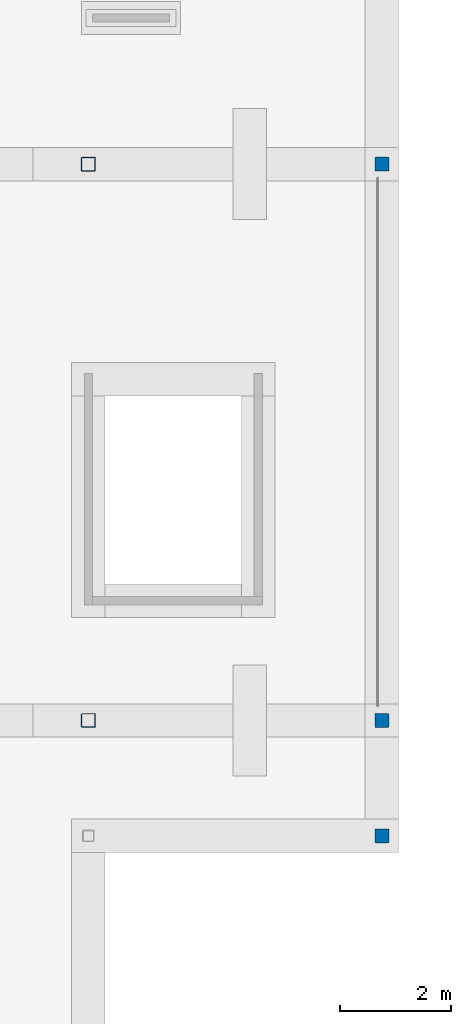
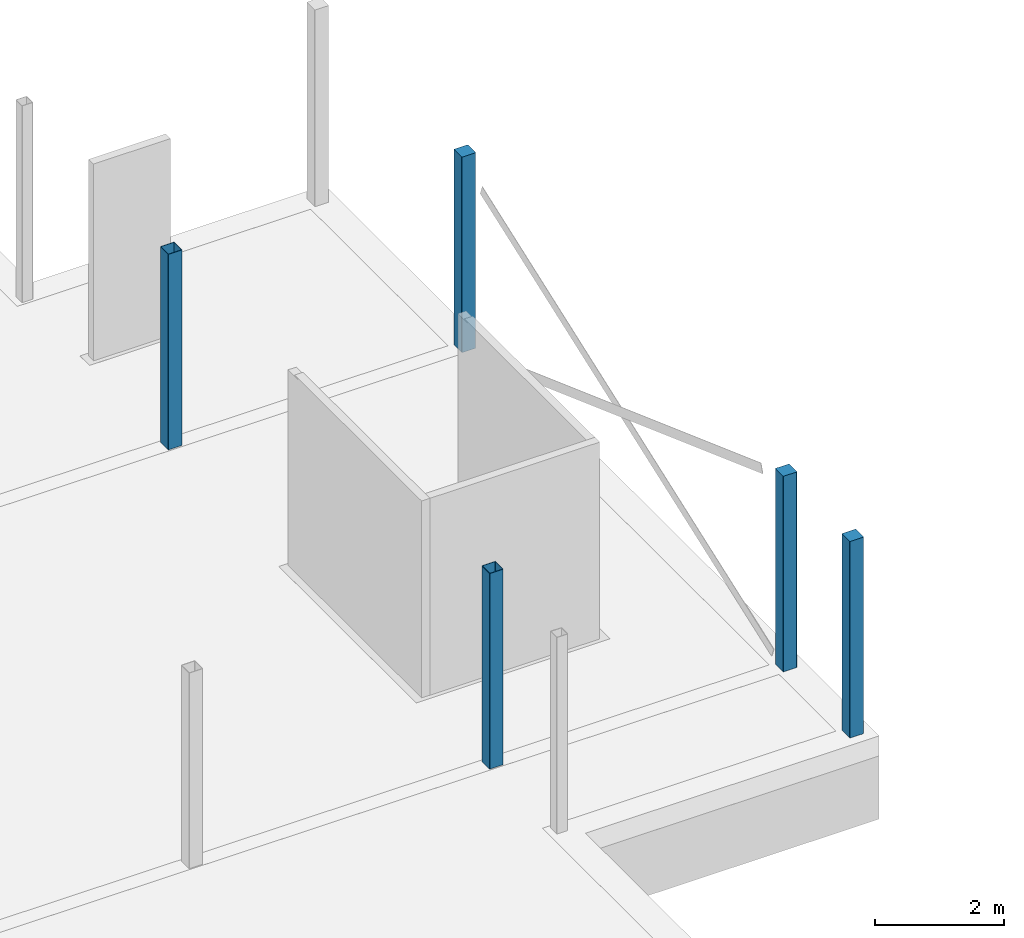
# One storey, part 4 of 12: 5 columns.
"""IFC2X3 building model written with IfcOpenShell, lengths in millimetres."""

from ifc_helpers import new_model, entity, si_unit, converted_unit, derived_unit, direction, frame, frame_2d, origin, place, context, subcontext, project, spatial, polyline, circle_curve, parameter, trimmed, segment, composite_curve, outline, extrude, source, transform, mapped, material, material_list, type_object, type_shapes, element, save


model = new_model("IFC2X3")

# Units and contexts
model_context = context("Model", 3, precision=0.01, world=origin(), true_north=direction((6.123031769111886e-17, 1.0)))
body_context = subcontext(model_context, "Body", "Model", "MODEL_VIEW")
ifc_project = project(units=[si_unit("LENGTHUNIT", "METRE", prefix="MILLI"), si_unit("AREAUNIT", "SQUARE_METRE"), si_unit("VOLUMEUNIT", "CUBIC_METRE"), converted_unit("PLANEANGLEUNIT", "DEGREE", entity("IfcPlaneAngleMeasure", 0.017453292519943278), si_unit("PLANEANGLEUNIT", "RADIAN"), dimensions=[0, 0, 0, 0, 0, 0, 0]), si_unit("MASSUNIT", "GRAM", prefix="KILO"), derived_unit("MASSDENSITYUNIT", [(si_unit("MASSUNIT", "GRAM", prefix="KILO"), 1), (si_unit("LENGTHUNIT", "METRE"), -3)]), derived_unit("IONCONCENTRATIONUNIT", [(si_unit("MASSUNIT", "GRAM", prefix="KILO"), 1), (si_unit("LENGTHUNIT", "METRE"), -3)]), derived_unit("MOMENTOFINERTIAUNIT", [(si_unit("LENGTHUNIT", "METRE"), 4)]), si_unit("TIMEUNIT", "SECOND"), si_unit("FREQUENCYUNIT", "HERTZ"), si_unit("THERMODYNAMICTEMPERATUREUNIT", "DEGREE_CELSIUS"), derived_unit("THERMALTRANSMITTANCEUNIT", [(si_unit("MASSUNIT", "GRAM", prefix="KILO"), 1), (si_unit("THERMODYNAMICTEMPERATUREUNIT", "KELVIN"), -1), (si_unit("TIMEUNIT", "SECOND"), -3)]), derived_unit("THERMALCONDUCTANCEUNIT", [(si_unit("MASSUNIT", "GRAM", prefix="KILO"), 1), (si_unit("THERMODYNAMICTEMPERATUREUNIT", "KELVIN"), -1), (si_unit("TIMEUNIT", "SECOND"), -3), (si_unit("LENGTHUNIT", "METRE"), 1)]), derived_unit("VOLUMETRICFLOWRATEUNIT", [(si_unit("LENGTHUNIT", "METRE", prefix="DECI"), 3), (si_unit("TIMEUNIT", "SECOND"), -1)]), derived_unit("MASSFLOWRATEUNIT", [(si_unit("MASSUNIT", "GRAM", prefix="KILO"), 1), (si_unit("TIMEUNIT", "SECOND"), -1)]), derived_unit("ROTATIONALFREQUENCYUNIT", [(si_unit("TIMEUNIT", "SECOND"), -1)]), si_unit("ELECTRICCURRENTUNIT", "AMPERE"), si_unit("ELECTRICVOLTAGEUNIT", "VOLT"), si_unit("POWERUNIT", "WATT"), si_unit("FORCEUNIT", "NEWTON", prefix="KILO"), si_unit("ILLUMINANCEUNIT", "LUX"), si_unit("LUMINOUSFLUXUNIT", "LUMEN"), si_unit("LUMINOUSINTENSITYUNIT", "CANDELA"), si_unit("ENERGYUNIT", "JOULE"), derived_unit("USERDEFINED", [(si_unit("MASSUNIT", "GRAM", prefix="KILO"), -1), (si_unit("LENGTHUNIT", "METRE"), -2), (si_unit("TIMEUNIT", "SECOND"), 3), (si_unit("LUMINOUSFLUXUNIT", "LUMEN"), 1)]), derived_unit("USERDEFINED", [(si_unit("MASSUNIT", "GRAM", prefix="KILO"), 1), (si_unit("TIMEUNIT", "SECOND"), -3), (si_unit("LENGTHUNIT", "METRE"), 3), (si_unit("ELECTRICCURRENTUNIT", "AMPERE"), -2)]), derived_unit("SOUNDPOWERUNIT", [(si_unit("MASSUNIT", "GRAM", prefix="KILO"), 1), (si_unit("TIMEUNIT", "SECOND"), -3), (si_unit("LENGTHUNIT", "METRE"), 2)]), derived_unit("SOUNDPRESSUREUNIT", [(si_unit("MASSUNIT", "GRAM", prefix="KILO"), 1), (si_unit("LENGTHUNIT", "METRE"), -1), (si_unit("TIMEUNIT", "SECOND"), -2)]), derived_unit("LINEARVELOCITYUNIT", [(si_unit("LENGTHUNIT", "METRE"), 1), (si_unit("TIMEUNIT", "SECOND"), -1)]), si_unit("PRESSUREUNIT", "PASCAL"), derived_unit("USERDEFINED", [(si_unit("MASSUNIT", "GRAM", prefix="KILO"), 1), (si_unit("LENGTHUNIT", "METRE"), -2), (si_unit("TIMEUNIT", "SECOND"), -2)]), derived_unit("LINEARFORCEUNIT", [(si_unit("MASSUNIT", "GRAM", prefix="KILO"), 1), (si_unit("TIMEUNIT", "SECOND"), -2)]), derived_unit("PLANARFORCEUNIT", [(si_unit("MASSUNIT", "GRAM", prefix="KILO"), 1), (si_unit("LENGTHUNIT", "METRE"), -1), (si_unit("TIMEUNIT", "SECOND"), -2)]), derived_unit("SPECIFICHEATCAPACITYUNIT", [(si_unit("THERMODYNAMICTEMPERATUREUNIT", "KELVIN"), -1), (si_unit("LENGTHUNIT", "METRE"), 2), (si_unit("TIMEUNIT", "SECOND"), -2)]), derived_unit("HEATFLUXDENSITYUNIT", [(si_unit("MASSUNIT", "GRAM", prefix="KILO"), 1), (si_unit("TIMEUNIT", "SECOND"), -3)]), derived_unit("HEATINGVALUEUNIT", [(si_unit("LENGTHUNIT", "METRE"), 2), (si_unit("TIMEUNIT", "SECOND"), -2)]), derived_unit("VAPORPERMEABILITYUNIT", [(si_unit("LENGTHUNIT", "METRE"), -1), (si_unit("TIMEUNIT", "SECOND"), 1)]), derived_unit("DYNAMICVISCOSITYUNIT", [(si_unit("MASSUNIT", "GRAM", prefix="KILO"), 1), (si_unit("TIMEUNIT", "SECOND"), -1), (si_unit("LENGTHUNIT", "METRE"), -1)]), derived_unit("THERMALEXPANSIONCOEFFICIENTUNIT", [(si_unit("THERMODYNAMICTEMPERATUREUNIT", "KELVIN"), -1)]), derived_unit("MODULUSOFELASTICITYUNIT", [(si_unit("MASSUNIT", "GRAM", prefix="KILO"), 1), (si_unit("LENGTHUNIT", "METRE"), -1), (si_unit("TIMEUNIT", "SECOND"), -2)]), derived_unit("ISOTHERMALMOISTURECAPACITYUNIT", [(si_unit("MASSUNIT", "GRAM", prefix="KILO"), -1), (si_unit("LENGTHUNIT", "METRE"), 3)]), derived_unit("MOISTUREDIFFUSIVITYUNIT", [(si_unit("TIMEUNIT", "SECOND"), -1), (si_unit("LENGTHUNIT", "METRE"), 2)]), derived_unit("MASSPERLENGTHUNIT", [(si_unit("MASSUNIT", "GRAM", prefix="KILO"), 1), (si_unit("LENGTHUNIT", "METRE"), -1)]), derived_unit("THERMALRESISTANCEUNIT", [(si_unit("MASSUNIT", "GRAM", prefix="KILO"), -1), (si_unit("TIMEUNIT", "SECOND"), 3), (si_unit("THERMODYNAMICTEMPERATUREUNIT", "KELVIN"), 1)]), derived_unit("ACCELERATIONUNIT", [(si_unit("LENGTHUNIT", "METRE"), 1), (si_unit("TIMEUNIT", "SECOND"), -2)]), derived_unit("ANGULARVELOCITYUNIT", [(si_unit("TIMEUNIT", "SECOND"), -1), (si_unit("PLANEANGLEUNIT", "RADIAN"), 1)]), derived_unit("LINEARSTIFFNESSUNIT", [(si_unit("MASSUNIT", "GRAM", prefix="KILO"), 1), (si_unit("TIMEUNIT", "SECOND"), -2)]), derived_unit("WARPINGCONSTANTUNIT", [(si_unit("LENGTHUNIT", "METRE"), 6)]), derived_unit("LINEARMOMENTUNIT", [(si_unit("MASSUNIT", "GRAM", prefix="KILO"), 1), (si_unit("LENGTHUNIT", "METRE"), 1), (si_unit("TIMEUNIT", "SECOND"), -2)]), derived_unit("TORQUEUNIT", [(si_unit("MASSUNIT", "GRAM", prefix="KILO"), 1), (si_unit("LENGTHUNIT", "METRE"), 2), (si_unit("TIMEUNIT", "SECOND"), -2)])], contexts=[model_context])

# Site, building, storey
site_placement = place(None, origin())
site = spatial("IfcSite", under=ifc_project, at=site_placement, Name="Default", CompositionType="ELEMENT")
building_placement = place(site_placement, origin())
building = spatial("IfcBuilding", under=site, at=building_placement, CompositionType="ELEMENT")
storey_placement = place(building_placement, origin())
storey = spatial("IfcBuildingStorey", under=building, at=storey_placement, Name="00 begane grond", CompositionType="ELEMENT", Elevation=0.0)

# Columns
ifc_material_1 = material(Name="VRI_beton_ihwg")
ifc_material_2 = material(Name="VRI_staal")
ifc_material_list = material_list([ifc_material_1, ifc_material_2])
column_type_1 = type_object("IfcColumnType", Name="28_SC_VRI_kolom_staal_betongevuld_koker:K250x250x8_gevuld", PredefinedType="COLUMN", material=ifc_material_list)
shared_shape_1 = source(origin(), body_context, "Body", "SweptSolid", [
    extrude(outline(composite_curve([segment(polyline([(-113.0, -117.0), (113.0, -117.0)]), True, "CONTINUOUS"), segment(trimmed(circle_curve(frame_2d((113.0, -113.0), x_axis=(-1.0, 0.0)), 4.0), [parameter(89.99999999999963)], [parameter(179.9999999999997)], True, "PARAMETER"), True, "CONTINUOUS"), segment(polyline([(117.0, -113.0), (117.0, 113.0)]), True, "CONTINUOUS"), segment(trimmed(circle_curve(frame_2d((113.0, 113.0), x_axis=(-1.0, 0.0)), 4.0), [parameter(180.00000000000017)], [parameter(269.99999999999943)], True, "PARAMETER"), True, "CONTINUOUS"), segment(polyline([(113.0, 117.0), (-113.0, 117.0)]), True, "CONTINUOUS"), segment(trimmed(circle_curve(frame_2d((-113.0, 113.0), x_axis=(-1.0, 0.0)), 4.0), [parameter(269.99999999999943)], [parameter(359.9999999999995)], True, "PARAMETER"), True, "CONTINUOUS"), segment(polyline([(-117.0, 113.0), (-117.0, -113.0)]), True, "CONTINUOUS"), segment(trimmed(circle_curve(frame_2d((-113.0, -113.0), x_axis=(-1.0, 0.0)), 4.0), [parameter(359.9999999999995)], [parameter(89.99999999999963)], True, "PARAMETER"), True, "CONTINUOUS")], self_intersect=False)), frame((-5.0, 0.0, -80.0), z_axis=(0.0, 0.0, 1.0), x_axis=(-1.0, 0.0, 0.0)), (0.0, 0.0, 1.0), 3735.0),
    extrude(outline(composite_curve([segment(polyline([(-113.0, -125.0), (113.0, -125.0)]), True, "CONTINUOUS"), segment(trimmed(circle_curve(frame_2d((113.0, -113.0), x_axis=(0.0, -1.0)), 12.0), [parameter(359.99999999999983)], [parameter(89.99999999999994)], True, "PARAMETER"), True, "CONTINUOUS"), segment(polyline([(125.0, -113.0), (125.0, 113.0)]), True, "CONTINUOUS"), segment(trimmed(circle_curve(frame_2d((113.0, 113.0), x_axis=(0.0, -1.0)), 12.0), [parameter(90.00000000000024)], [parameter(180.00000000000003)], True, "PARAMETER"), True, "CONTINUOUS"), segment(polyline([(113.0, 125.0), (-113.0, 125.0)]), True, "CONTINUOUS"), segment(trimmed(circle_curve(frame_2d((-113.0, 113.0), x_axis=(0.0, -1.0)), 12.0), [parameter(179.99999999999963)], [parameter(269.9999999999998)], True, "PARAMETER"), True, "CONTINUOUS"), segment(polyline([(-125.0, 113.0), (-125.0, -113.0)]), True, "CONTINUOUS"), segment(trimmed(circle_curve(frame_2d((-113.0, -113.0), x_axis=(0.0, -1.0)), 12.0), [parameter(270.00000000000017)], [parameter(1.0177774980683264e-13)], True, "PARAMETER"), True, "CONTINUOUS")], self_intersect=False), holes=[composite_curve([segment(trimmed(circle_curve(frame_2d((-113.0, 113.0), x_axis=(0.0, -1.0)), 4.0), [parameter(180.0000000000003)], [parameter(270.0000000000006)], True, "PARAMETER"), False, "CONTINUOUS"), segment(polyline([(-113.0, 117.0), (113.0, 117.0)]), True, "CONTINUOUS"), segment(trimmed(circle_curve(frame_2d((113.0, 113.0), x_axis=(0.0, -1.0)), 4.0), [parameter(90.00000000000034)], [parameter(179.9999999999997)], True, "PARAMETER"), False, "CONTINUOUS"), segment(polyline([(117.0, 113.0), (117.0, -113.0)]), True, "CONTINUOUS"), segment(trimmed(circle_curve(frame_2d((113.0, -113.0), x_axis=(0.0, -1.0)), 4.0), [parameter(5.088887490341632e-13)], [parameter(90.00000000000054)], True, "PARAMETER"), False, "CONTINUOUS"), segment(polyline([(113.0, -117.0), (-113.0, -117.0)]), True, "CONTINUOUS"), segment(trimmed(circle_curve(frame_2d((-113.0, -113.0), x_axis=(0.0, -1.0)), 4.0), [parameter(269.9999999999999)], [parameter(0.0)], True, "PARAMETER"), False, "CONTINUOUS"), segment(polyline([(-117.0, -113.0), (-117.0, 113.0)]), True, "CONTINUOUS")], self_intersect=False)]), frame((-5.0, 0.0, -80.0), z_axis=(0.0, 0.0, 1.0), x_axis=(0.0, 1.0, 0.0)), (0.0, 0.0, 1.0), 3735.0),
])
type_shapes(column_type_1, [shared_shape_1])
column_placement = place(storey_placement, frame((58480.0, 17925.0, 0.0)))
element("IfcColumn", 1, at=column_placement, inside=storey, type_object=column_type_1, material=ifc_material_list, Name="28_SC_VRI_kolom_staal_betongevuld_koker:K250x250x8_gevuld", ObjectType="28_SC_VRI_kolom_staal_betongevuld_koker:K250x250x8_gevuld", context=body_context, shape_type="MappedRepresentation", body=[
    mapped(shared_shape_1, transform((0.0, 0.0, 0.0), scale=1.0)),
])
column_type_2 = type_object("IfcColumnType", Name="28_SC_VRI_kolom_staal_betongevuld_koker:K250x250x8_gevuld", PredefinedType="COLUMN", material=ifc_material_list)
shared_shape_2 = source(origin(), body_context, "Body", "SweptSolid", [
    extrude(outline(composite_curve([segment(polyline([(-113.0, -117.0), (113.0, -117.0)]), True, "CONTINUOUS"), segment(trimmed(circle_curve(frame_2d((113.0, -113.0), x_axis=(-1.0, 0.0)), 4.0), [parameter(89.99999999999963)], [parameter(179.9999999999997)], True, "PARAMETER"), True, "CONTINUOUS"), segment(polyline([(117.0, -113.0), (117.0, 113.0)]), True, "CONTINUOUS"), segment(trimmed(circle_curve(frame_2d((113.0, 113.0), x_axis=(-1.0, 0.0)), 4.0), [parameter(180.00000000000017)], [parameter(269.99999999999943)], True, "PARAMETER"), True, "CONTINUOUS"), segment(polyline([(113.0, 117.0), (-113.0, 117.0)]), True, "CONTINUOUS"), segment(trimmed(circle_curve(frame_2d((-113.0, 113.0), x_axis=(-1.0, 0.0)), 4.0), [parameter(269.99999999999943)], [parameter(359.9999999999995)], True, "PARAMETER"), True, "CONTINUOUS"), segment(polyline([(-117.0, 113.0), (-117.0, -113.0)]), True, "CONTINUOUS"), segment(trimmed(circle_curve(frame_2d((-113.0, -113.0), x_axis=(-1.0, 0.0)), 4.0), [parameter(359.9999999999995)], [parameter(89.99999999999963)], True, "PARAMETER"), True, "CONTINUOUS")], self_intersect=False)), frame((-5.0, 0.0, -80.0), z_axis=(0.0, 0.0, 1.0), x_axis=(-1.0, 0.0, 0.0)), (0.0, 0.0, 1.0), 3715.0),
    extrude(outline(composite_curve([segment(polyline([(-113.0, -125.0), (113.0, -125.0)]), True, "CONTINUOUS"), segment(trimmed(circle_curve(frame_2d((113.0, -113.0), x_axis=(0.0, -1.0)), 12.0), [parameter(359.99999999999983)], [parameter(89.99999999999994)], True, "PARAMETER"), True, "CONTINUOUS"), segment(polyline([(125.0, -113.0), (125.0, 113.0)]), True, "CONTINUOUS"), segment(trimmed(circle_curve(frame_2d((113.0, 113.0), x_axis=(0.0, -1.0)), 12.0), [parameter(90.00000000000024)], [parameter(180.00000000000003)], True, "PARAMETER"), True, "CONTINUOUS"), segment(polyline([(113.0, 125.0), (-113.0, 125.0)]), True, "CONTINUOUS"), segment(trimmed(circle_curve(frame_2d((-113.0, 113.0), x_axis=(0.0, -1.0)), 12.0), [parameter(179.99999999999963)], [parameter(269.9999999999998)], True, "PARAMETER"), True, "CONTINUOUS"), segment(polyline([(-125.0, 113.0), (-125.0, -113.0)]), True, "CONTINUOUS"), segment(trimmed(circle_curve(frame_2d((-113.0, -113.0), x_axis=(0.0, -1.0)), 12.0), [parameter(270.00000000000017)], [parameter(1.0177774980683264e-13)], True, "PARAMETER"), True, "CONTINUOUS")], self_intersect=False), holes=[composite_curve([segment(trimmed(circle_curve(frame_2d((-113.0, 113.0), x_axis=(0.0, -1.0)), 4.0), [parameter(180.0000000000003)], [parameter(270.0000000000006)], True, "PARAMETER"), False, "CONTINUOUS"), segment(polyline([(-113.0, 117.0), (113.0, 117.0)]), True, "CONTINUOUS"), segment(trimmed(circle_curve(frame_2d((113.0, 113.0), x_axis=(0.0, -1.0)), 4.0), [parameter(90.00000000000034)], [parameter(179.9999999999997)], True, "PARAMETER"), False, "CONTINUOUS"), segment(polyline([(117.0, 113.0), (117.0, -113.0)]), True, "CONTINUOUS"), segment(trimmed(circle_curve(frame_2d((113.0, -113.0), x_axis=(0.0, -1.0)), 4.0), [parameter(5.088887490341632e-13)], [parameter(90.00000000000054)], True, "PARAMETER"), False, "CONTINUOUS"), segment(polyline([(113.0, -117.0), (-113.0, -117.0)]), True, "CONTINUOUS"), segment(trimmed(circle_curve(frame_2d((-113.0, -113.0), x_axis=(0.0, -1.0)), 4.0), [parameter(269.9999999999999)], [parameter(0.0)], True, "PARAMETER"), False, "CONTINUOUS"), segment(polyline([(-117.0, -113.0), (-117.0, 113.0)]), True, "CONTINUOUS")], self_intersect=False)]), frame((-5.0, 0.0, -80.0), z_axis=(0.0, 0.0, 1.0), x_axis=(0.0, 1.0, 0.0)), (0.0, 0.0, 1.0), 3715.0),
])
type_shapes(column_type_2, [shared_shape_2])
for number, where in (
    (2, (58480.0, 20000.0, 0.0)),
    (3, (58480.0, 30000.0, 0.0)),
):
    element("IfcColumn", number, at=place(storey_placement, frame(where)), inside=storey, type_object=column_type_2, material=ifc_material_list, Name="28_SC_VRI_kolom_staal_betongevuld_koker:K250x250x8_gevuld", ObjectType="28_SC_VRI_kolom_staal_betongevuld_koker:K250x250x8_gevuld", context=body_context, shape_type="MappedRepresentation", body=[
        mapped(shared_shape_2, transform((0.0, 0.0, 0.0), scale=1.0)),
    ])
column_type_3 = type_object("IfcColumnType", Name="28_SC_VRI_kolom_staal_koker:K250x250x8", PredefinedType="COLUMN", material=ifc_material_2)
shared_shape_3 = source(origin(), body_context, "Body", "SweptSolid", [
    extrude(outline(composite_curve([segment(polyline([(-113.0, -125.0), (113.0, -125.0)]), True, "CONTINUOUS"), segment(trimmed(circle_curve(frame_2d((113.0, -113.0), x_axis=(0.0, -1.0)), 12.0), [parameter(359.99999999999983)], [parameter(89.99999999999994)], True, "PARAMETER"), True, "CONTINUOUS"), segment(polyline([(125.0, -113.0), (125.0, 113.0)]), True, "CONTINUOUS"), segment(trimmed(circle_curve(frame_2d((113.0, 113.0), x_axis=(0.0, -1.0)), 12.0), [parameter(90.00000000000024)], [parameter(180.00000000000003)], True, "PARAMETER"), True, "CONTINUOUS"), segment(polyline([(113.0, 125.0), (-113.0, 125.0)]), True, "CONTINUOUS"), segment(trimmed(circle_curve(frame_2d((-113.0, 113.0), x_axis=(0.0, -1.0)), 12.0), [parameter(179.99999999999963)], [parameter(269.9999999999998)], True, "PARAMETER"), True, "CONTINUOUS"), segment(polyline([(-125.0, 113.0), (-125.0, -113.0)]), True, "CONTINUOUS"), segment(trimmed(circle_curve(frame_2d((-113.0, -113.0), x_axis=(0.0, -1.0)), 12.0), [parameter(270.00000000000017)], [parameter(1.0177774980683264e-13)], True, "PARAMETER"), True, "CONTINUOUS")], self_intersect=False), holes=[composite_curve([segment(trimmed(circle_curve(frame_2d((-113.0, 113.0), x_axis=(0.0, -1.0)), 4.0), [parameter(180.0000000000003)], [parameter(270.0000000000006)], True, "PARAMETER"), False, "CONTINUOUS"), segment(polyline([(-113.0, 117.0), (113.0, 117.0)]), True, "CONTINUOUS"), segment(trimmed(circle_curve(frame_2d((113.0, 113.0), x_axis=(0.0, -1.0)), 4.0), [parameter(90.00000000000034)], [parameter(179.9999999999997)], True, "PARAMETER"), False, "CONTINUOUS"), segment(polyline([(117.0, 113.0), (117.0, -113.0)]), True, "CONTINUOUS"), segment(trimmed(circle_curve(frame_2d((113.0, -113.0), x_axis=(0.0, -1.0)), 4.0), [parameter(5.088887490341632e-13)], [parameter(90.00000000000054)], True, "PARAMETER"), False, "CONTINUOUS"), segment(polyline([(113.0, -117.0), (-113.0, -117.0)]), True, "CONTINUOUS"), segment(trimmed(circle_curve(frame_2d((-113.0, -113.0), x_axis=(0.0, -1.0)), 4.0), [parameter(269.9999999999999)], [parameter(0.0)], True, "PARAMETER"), False, "CONTINUOUS"), segment(polyline([(-117.0, -113.0), (-117.0, 113.0)]), True, "CONTINUOUS")], self_intersect=False)]), frame((-5.0, 0.0, -80.0), z_axis=(0.0, 0.0, 1.0), x_axis=(0.0, 1.0, 0.0)), (0.0, 0.0, 1.0), 3715.0),
])
type_shapes(column_type_3, [shared_shape_3])
for number, where in (
    (4, (53205.0, 20000.0, 0.0)),
    (5, (53205.0, 30000.0, 0.0)),
):
    element("IfcColumn", number, at=place(storey_placement, frame(where)), inside=storey, type_object=column_type_3, material=ifc_material_2, Name="28_SC_VRI_kolom_staal_koker:K250x250x8", ObjectType="28_SC_VRI_kolom_staal_koker:K250x250x8", context=body_context, shape_type="MappedRepresentation", body=[
        mapped(shared_shape_3, transform((0.0, 0.0, 0.0), scale=1.0)),
    ])

save(model, "model.ifc")
